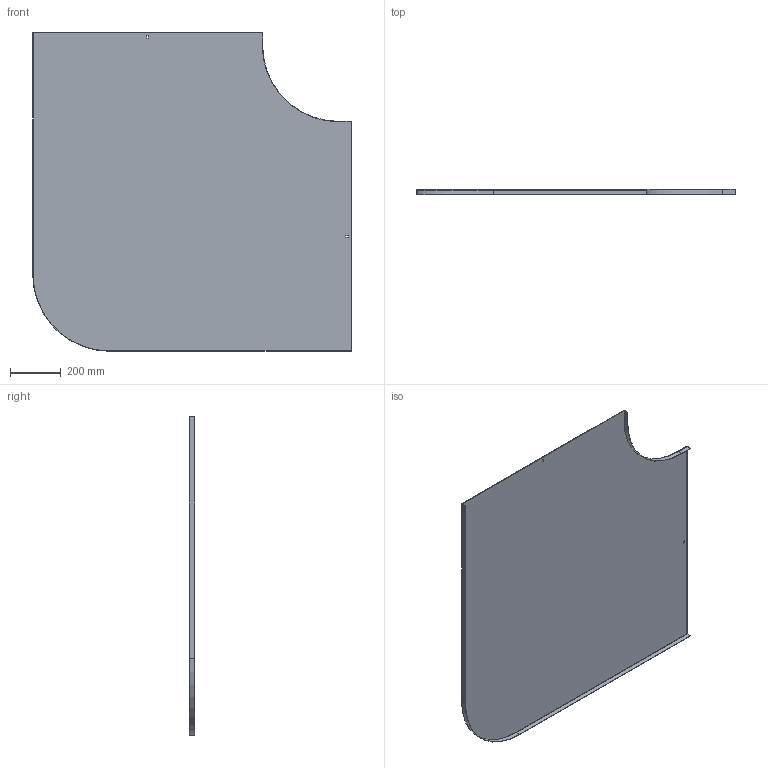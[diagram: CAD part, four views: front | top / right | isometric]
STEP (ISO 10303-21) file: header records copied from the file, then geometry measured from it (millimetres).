
FILE_DESCRIPTION (( 'STEP AP214' ), '1' );
FILE_NAME ('B2_10N3R900.step', '2025-02-21T10:54:43', ( '' ), ( '' ), 'SwSTEP 2.0', 'SolidWorks 2023', '' );
FILE_SCHEMA (( 'AUTOMOTIVE_DESIGN' ));
Length unit declared in the file: millimetre
Products named in the file (1): B2_10N3R900
Bounding box: 1251.5 x 20 x 1251.5 mm (x, y, z)
Volume: 2248098.8 mm3; surface area: 3004791.8 mm2
Topology: 1 solids, 1 shells, 26 faces, 72 edges, 48 vertices
Faces by surface type: plane 22, cylinder 4
Entity records: 855 total; most frequent: CARTESIAN_POINT 147, ORIENTED_EDGE 144, DIRECTION 134, EDGE_CURVE 72, VECTOR 64, LINE 64, VERTEX_POINT 48, AXIS2_PLACEMENT_3D 35
